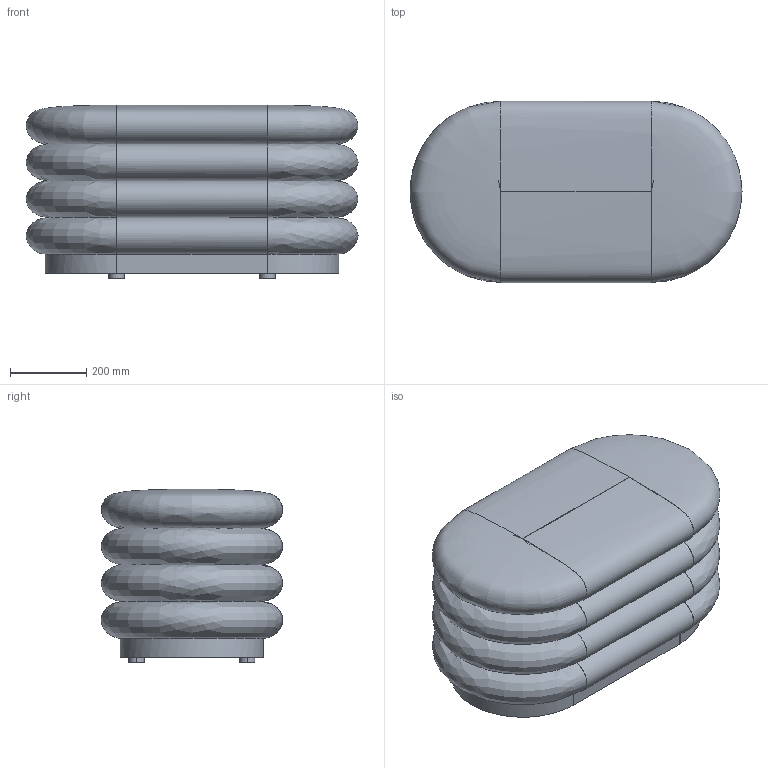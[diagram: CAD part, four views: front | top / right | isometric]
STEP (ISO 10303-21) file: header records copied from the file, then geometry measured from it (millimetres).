
FILE_DESCRIPTION(/* description */ (''),/* implementation_level */ '2;1');
FILE_NAME(/* name */ 'P9A1BD~1',/* time_stamp */ '2019-01-30T15:57:25+01:00',/* author */ (''),/* organization */ (''),/* preprocessor_version */ 'ST-DEVELOPER v15',/* originating_system */ '',/* authorisation */ '');
FILE_SCHEMA (('AUTOMOTIVE_DESIGN'));
Length unit declared in the file: millimetre
Products named in the file (1): Document
Bounding box: 869.49 x 475.3 x 455.56 mm (x, y, z)
Volume: 75589.7 mm3; surface area: 2046681.9 mm2
Topology: 4 solids, 5 shells, 40 faces, 89 edges, 54 vertices
Faces by surface type: bspline 40
Entity records: 2909 total; most frequent: CARTESIAN_POINT 1905, B_SPLINE_CURVE_WITH_KNOTS 157, ORIENTED_EDGE 146, PCURVE 146, DEFINITIONAL_REPRESENTATION 146, SURFACE_CURVE 85, EDGE_CURVE 85, VERTEX_POINT 54
